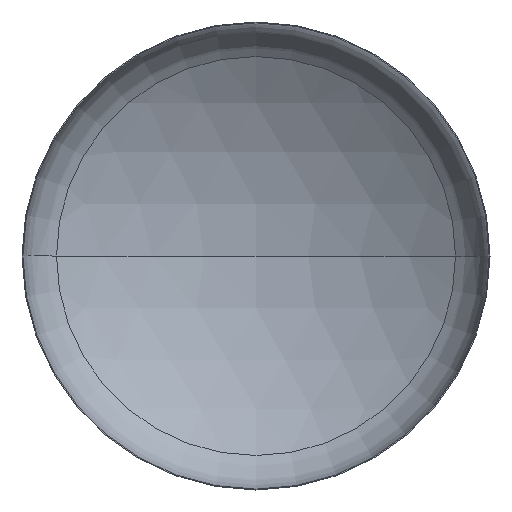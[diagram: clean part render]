
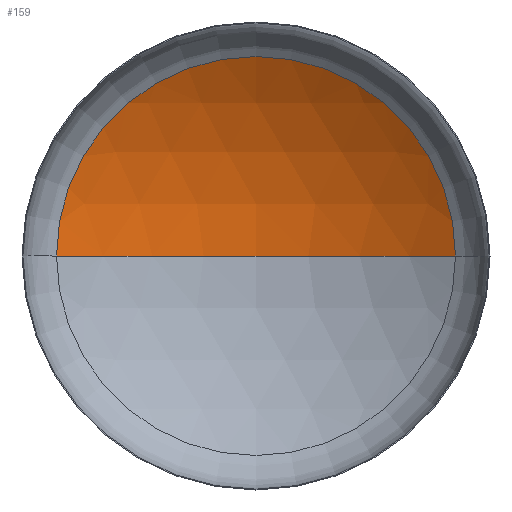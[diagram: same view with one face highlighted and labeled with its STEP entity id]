
A CAD part, front view. The second image highlights one B-rep face of the part: STEP entity #159.
In plain terms, the highlighted spherical face has radius 5200 mm.
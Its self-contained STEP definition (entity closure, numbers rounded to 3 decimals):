
#19 = ORIENTED_EDGE ( 'NONE', *, *, #153, .T. ) ;
#44 = VERTEX_POINT ( 'NONE', #292 ) ;
#52 = FACE_OUTER_BOUND ( 'NONE', #186, .T. ) ;
#72 = AXIS2_PLACEMENT_3D ( 'NONE', #382, #243, #401 ) ;
#76 = AXIS2_PLACEMENT_3D ( 'NONE', #155, #187, #342 ) ;
#80 = AXIS2_PLACEMENT_3D ( 'NONE', #240, #179, #358 ) ;
#86 = ORIENTED_EDGE ( 'NONE', *, *, #160, .T. ) ;
#88 = AXIS2_PLACEMENT_3D ( 'NONE', #190, #152, #154 ) ;
#124 = VERTEX_POINT ( 'NONE', #230 ) ;
#152 = DIRECTION ( 'NONE',  ( 0., -1., 0. ) ) ;
#153 = EDGE_CURVE ( 'NONE', #194, #124, #383, .T. ) ;
#154 = DIRECTION ( 'NONE',  ( 1., 0., 0. ) ) ;
#155 = CARTESIAN_POINT ( 'NONE',  ( 0., -3514.062, 0. ) ) ;
#159 = ADVANCED_FACE ( 'NONE', ( #52 ), #177, .F. ) ;
#160 = EDGE_CURVE ( 'NONE', #44, #194, #263, .T. ) ;
#163 = EDGE_CURVE ( 'NONE', #44, #124, #321, .T. ) ;
#177 = SPHERICAL_SURFACE ( 'NONE', #76, 5200. ) ;
#179 = DIRECTION ( 'NONE',  ( 0., 0., -1. ) ) ;
#186 = EDGE_LOOP ( 'NONE', ( #212, #86, #19 ) ) ;
#187 = DIRECTION ( 'NONE',  ( 0., 0., -1. ) ) ;
#190 = CARTESIAN_POINT ( 'NONE',  ( 0., 886.205, 0. ) ) ;
#194 = VERTEX_POINT ( 'NONE', #196 ) ;
#196 = CARTESIAN_POINT ( 'NONE',  ( 2770.857, 886.205, 0. ) ) ;
#212 = ORIENTED_EDGE ( 'NONE', *, *, #163, .F. ) ;
#230 = CARTESIAN_POINT ( 'NONE',  ( -2770.857, 886.205, 0. ) ) ;
#240 = CARTESIAN_POINT ( 'NONE',  ( 0., -3514.062, 0. ) ) ;
#243 = DIRECTION ( 'NONE',  ( 0., 0., 1. ) ) ;
#263 = CIRCLE ( 'NONE', #80, 5200. ) ;
#292 = CARTESIAN_POINT ( 'NONE',  ( 0., 1685.938, 0. ) ) ;
#321 = CIRCLE ( 'NONE', #72, 5200. ) ;
#342 = DIRECTION ( 'NONE',  ( -1., 0., 0. ) ) ;
#358 = DIRECTION ( 'NONE',  ( -1., 0., 0. ) ) ;
#382 = CARTESIAN_POINT ( 'NONE',  ( 0., -3514.062, 0. ) ) ;
#383 = CIRCLE ( 'NONE', #88, 2770.857 ) ;
#401 = DIRECTION ( 'NONE',  ( 1., 0., 0. ) ) ;
